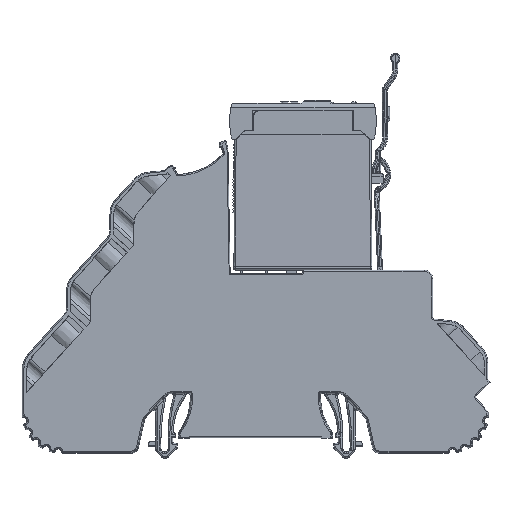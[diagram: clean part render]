
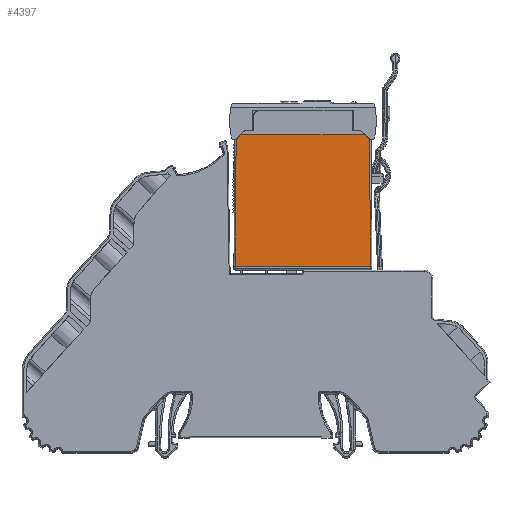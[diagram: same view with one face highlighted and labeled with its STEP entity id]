
A CAD part, left-side view. The second image highlights one B-rep face of the part: STEP entity #4397.
In plain terms, the highlighted planar face has unit normal (-1, 0, 0.006).
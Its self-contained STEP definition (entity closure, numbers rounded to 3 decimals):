
#2046 = VECTOR ( 'NONE', #142071, 1000. ) ;
#3974 = VERTEX_POINT ( 'NONE', #62874 ) ;
#4397 = ADVANCED_FACE ( 'NONE', ( #31575 ), #72261, .F. ) ;
#4984 = CARTESIAN_POINT ( 'NONE',  ( -6.137, -15.887, 56.463 ) ) ;
#6694 = DIRECTION ( 'NONE',  ( 0., -1., 0. ) ) ;
#9660 = EDGE_LOOP ( 'NONE', ( #118905, #55478, #45315, #95231, #97989, #50430 ) ) ;
#12482 = CARTESIAN_POINT ( 'NONE',  ( -6.081, 11.131, 66.2 ) ) ;
#16544 = CARTESIAN_POINT ( 'NONE',  ( -6.081, -14.931, 66.2 ) ) ;
#20216 = LINE ( 'NONE', #32803, #38976 ) ;
#21190 = CARTESIAN_POINT ( 'NONE',  ( -6.086, -15.836, 65.295 ) ) ;
#22068 = CARTESIAN_POINT ( 'NONE',  ( -6.24, 12.19, 38.8 ) ) ;
#26621 = CARTESIAN_POINT ( 'NONE',  ( -6.188, -15.938, 47.632 ) ) ;
#31340 = LINE ( 'NONE', #21190, #2046 ) ;
#31575 = FACE_OUTER_BOUND ( 'NONE', #9660, .T. ) ;
#32803 = CARTESIAN_POINT ( 'NONE',  ( -6.24, 12.19, 38.8 ) ) ;
#37755 = LINE ( 'NONE', #124905, #127166 ) ;
#38976 = VECTOR ( 'NONE', #66260, 1000. ) ;
#43913 = EDGE_CURVE ( 'NONE', #51471, #76604, #137497, .T. ) ;
#45315 = ORIENTED_EDGE ( 'NONE', *, *, #76868, .T. ) ;
#47860 = EDGE_CURVE ( 'NONE', #123901, #76604, #37755, .T. ) ;
#48468 = EDGE_CURVE ( 'NONE', #140766, #60214, #57903, .T. ) ;
#49986 = CARTESIAN_POINT ( 'NONE',  ( -6.086, -15.836, 65.295 ) ) ;
#50430 = ORIENTED_EDGE ( 'NONE', *, *, #43913, .F. ) ;
#51192 = CARTESIAN_POINT ( 'NONE',  ( -6.081, -1.9, 66.2 ) ) ;
#51471 = VERTEX_POINT ( 'NONE', #98284 ) ;
#55171 = EDGE_CURVE ( 'NONE', #51471, #60214, #31340, .T. ) ;
#55478 = ORIENTED_EDGE ( 'NONE', *, *, #48468, .F. ) ;
#57903 = LINE ( 'NONE', #51192, #85324 ) ;
#60214 = VERTEX_POINT ( 'NONE', #16544 ) ;
#62874 = CARTESIAN_POINT ( 'NONE',  ( -6.086, 12.036, 65.295 ) ) ;
#63132 = DIRECTION ( 'NONE',  ( 1., 0., -0.006 ) ) ;
#66260 = DIRECTION ( 'NONE',  ( 0.006, -0.006, 1. ) ) ;
#72261 = PLANE ( 'NONE',  #96432 ) ;
#76604 = VERTEX_POINT ( 'NONE', #136231 ) ;
#76868 = EDGE_CURVE ( 'NONE', #140766, #3974, #136598, .T. ) ;
#84683 = DIRECTION ( 'NONE',  ( -0.004, 0.707, -0.707 ) ) ;
#85150 = DIRECTION ( 'NONE',  ( -0.006, 0., -1. ) ) ;
#85324 = VECTOR ( 'NONE', #6694, 1000. ) ;
#95231 = ORIENTED_EDGE ( 'NONE', *, *, #115641, .F. ) ;
#96432 = AXIS2_PLACEMENT_3D ( 'NONE', #117017, #63132, #85150 ) ;
#97989 = ORIENTED_EDGE ( 'NONE', *, *, #47860, .T. ) ;
#98284 = CARTESIAN_POINT ( 'NONE',  ( -6.086, -15.836, 65.295 ) ) ;
#100464 = VECTOR ( 'NONE', #84683, 1000. ) ;
#115641 = EDGE_CURVE ( 'NONE', #123901, #3974, #20216, .T. ) ;
#117017 = CARTESIAN_POINT ( 'NONE',  ( -6.15, -1.9, 54.286 ) ) ;
#117984 = CARTESIAN_POINT ( 'NONE',  ( -6.081, 11.131, 66.2 ) ) ;
#118905 = ORIENTED_EDGE ( 'NONE', *, *, #55171, .T. ) ;
#123901 = VERTEX_POINT ( 'NONE', #22068 ) ;
#124391 = DIRECTION ( 'NONE',  ( 0., -1., 0. ) ) ;
#124905 = CARTESIAN_POINT ( 'NONE',  ( -6.24, 12.5, 38.8 ) ) ;
#125893 = CARTESIAN_POINT ( 'NONE',  ( -6.24, -15.99, 38.8 ) ) ;
#127166 = VECTOR ( 'NONE', #124391, 1000. ) ;
#136231 = CARTESIAN_POINT ( 'NONE',  ( -6.24, -15.99, 38.8 ) ) ;
#136598 = LINE ( 'NONE', #117984, #100464 ) ;
#137497 = B_SPLINE_CURVE_WITH_KNOTS ( 'NONE', 3,
 ( #49986, #4984, #26621, #125893 ),
 .UNSPECIFIED., .F., .F.,
 ( 4, 4 ),
 ( 0., 1. ),
 .UNSPECIFIED. ) ;
#140766 = VERTEX_POINT ( 'NONE', #12482 ) ;
#142071 = DIRECTION ( 'NONE',  ( 0.004, 0.707, 0.707 ) ) ;
